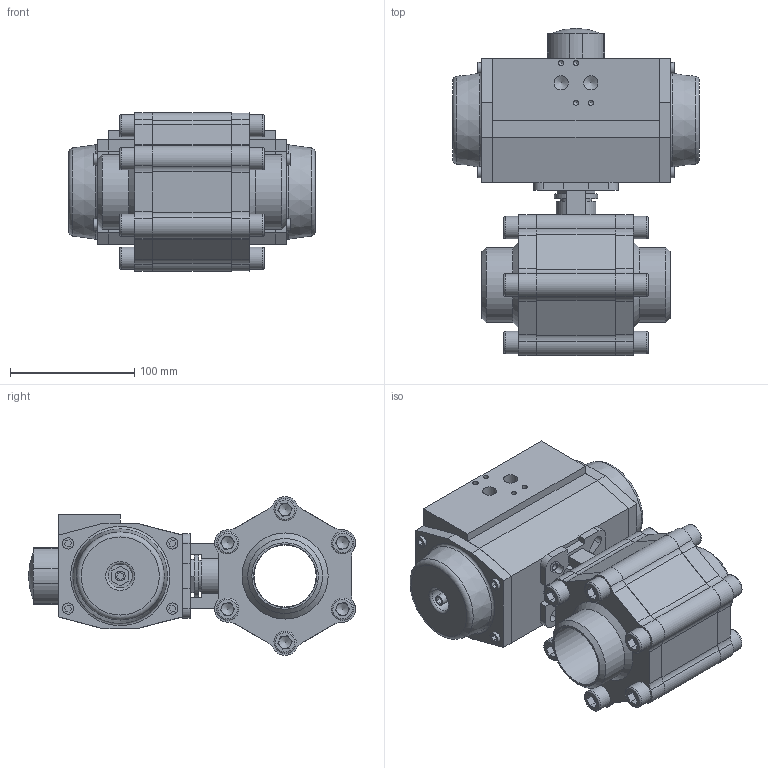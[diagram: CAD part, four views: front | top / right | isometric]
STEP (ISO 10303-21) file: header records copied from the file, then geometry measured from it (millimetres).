
FILE_DESCRIPTION (( 'STEP AP214' ), '1' );
FILE_NAME ('S33D BW DN50 + AP3.STEP', '2025-08-13T08:14:07', ( '' ), ( '' ), 'SwSTEP 2.0', 'SolidWorks 2021', '' );
FILE_SCHEMA (( 'AUTOMOTIVE_DESIGN' ));
Length unit declared in the file: millimetre
Products named in the file (6): socket head cap screw_din_DIN 912 M12 x 30 --- 30N; S33D BW DN50 + AP3; S33D KK DN50 PN100; AP3_Default<As Machined>; S33D Flens Buttweld DN50; S33D DN50 Buttweld
Assembly tree (18 placements, depth 3):
  S33D BW DN50 + AP3
    S33D DN50 Buttweld
      S33D KK DN50 PN100
      S33D Flens Buttweld DN50  x2
      socket head cap screw_din_DIN 912 M12 x 30 --- 30N  x13
    AP3_Default<As Machined>
Bounding box: 199 x 263.7 x 127.92 mm (x, y, z)
Volume: 2386185 mm3; surface area: 288726.6 mm2
Topology: 24 solids, 24 shells, 676 faces, 1619 edges, 1035 vertices
Faces by surface type: plane 436, cylinder 157, cone 50, torus 32, sphere 1
Full cylindrical faces by diameter (mm): 4.2 x8, 5 x4, 6.8 x4, 8 x2, 9 x8, 10.5 x6, 11.445 x2, 12 x13, 12.5 x12, 18 x13, 19.3 x2, 25 x1, 28 x1, 35 x2, 38.5 x1, 45.8 x1, 50 x1, 50.7 x2, 60.4 x2
Entity records: 12252 total; most frequent: DIRECTION 1923, CARTESIAN_POINT 1884, ORIENTED_EDGE 1724, EDGE_CURVE 862, AXIS2_PLACEMENT_3D 652, LINE 619, VECTOR 619, VERTEX_POINT 613
